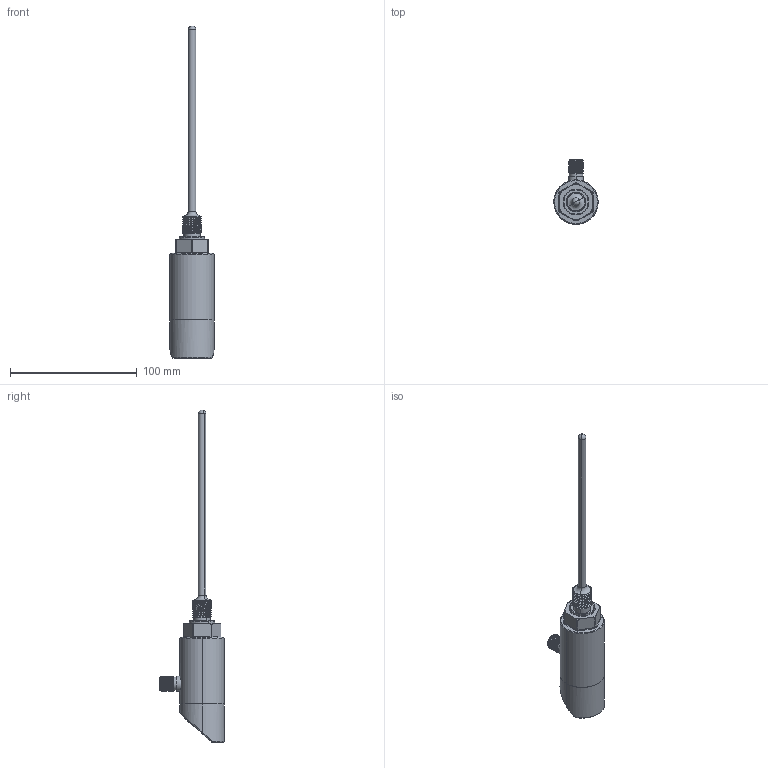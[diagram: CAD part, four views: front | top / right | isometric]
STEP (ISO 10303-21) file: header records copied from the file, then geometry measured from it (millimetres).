
FILE_DESCRIPTION (( 'STEP AP214' ), '1' );
FILE_NAME ('BTD2X54.STEP', '2024-12-03T03:42:35', ( '' ), ( '' ), 'SwSTEP 2.0', 'SolidWorks 2022', '' );
FILE_SCHEMA (( 'AUTOMOTIVE_DESIGN' ));
Length unit declared in the file: millimetre
Products named in the file (7): BTD2X52.STEP^BTD2X52(2)_BTD2X52; BTD2X54; ^_BTD2X52.STEP_BTD2X52(2)_BTD2X52; 复件 (3) ^_BTD2X52.STEP_BTD2X52(2)_BTD2X52; 探杆; BTD2X52(2)^BTD2X52; ^BTD2X52.STEP_BTD2X52(2)_BTD2X52
Assembly tree (6 placements, depth 5):
  BTD2X54
    BTD2X52(2)^BTD2X52
      BTD2X52.STEP^BTD2X52(2)_BTD2X52
        ^BTD2X52.STEP_BTD2X52(2)_BTD2X52
          ^_BTD2X52.STEP_BTD2X52(2)_BTD2X52
          复件 (3) ^_BTD2X52.STEP_BTD2X52(2)_BTD2X52
    探杆
Bounding box: 35 x 51 x 262 mm (x, y, z)
Volume: 86766 mm3; surface area: 20499.9 mm2
Topology: 3 solids, 3 shells, 172 faces, 420 edges, 262 vertices
Faces by surface type: cylinder 91, plane 49, sphere 13, torus 9, bspline 8, cone 2
Entity records: 11644 total; most frequent: CARTESIAN_POINT 7501, ORIENTED_EDGE 802, DIRECTION 741, EDGE_CURVE 401, AXIS2_PLACEMENT_3D 290, VERTEX_POINT 256, EDGE_LOOP 193, FACE_OUTER_BOUND 172
